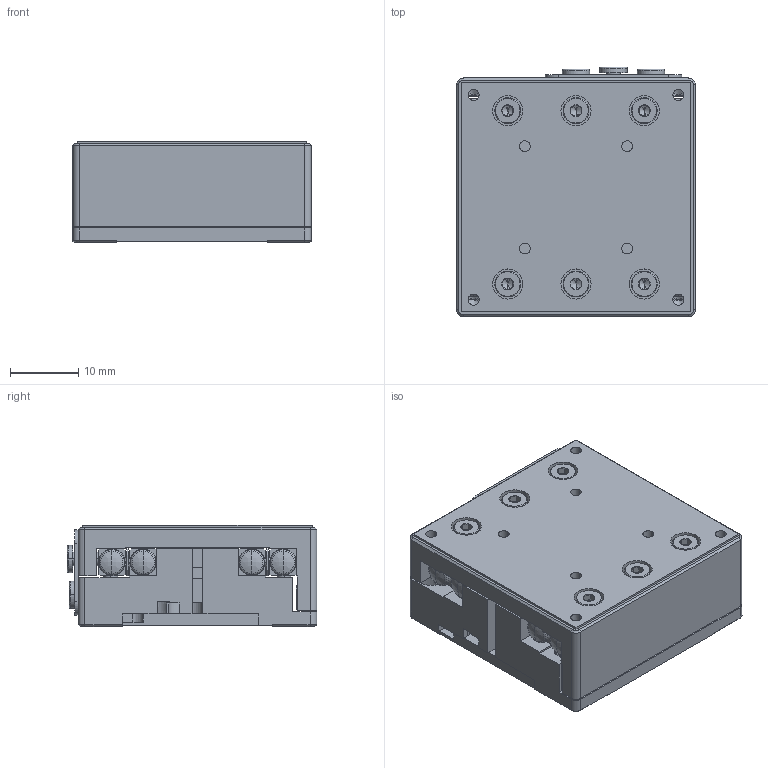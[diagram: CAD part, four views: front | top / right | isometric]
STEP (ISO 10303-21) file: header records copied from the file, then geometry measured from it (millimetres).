
FILE_DESCRIPTION((''),'2;1');
FILE_NAME('LS1-0310_ID4501_ASM','2023-04-26T',('Administrator'),(''),'CREO PARAMETRIC BY PTC INC, 2014500','CREO PARAMETRIC BY PTC INC, 2014500','');
FILE_SCHEMA(('CONFIG_CONTROL_DESIGN'));
Length unit declared in the file: millimetre
Products named in the file (13): JZ_LS1-0310_ID450; _VR1-30_GUIDE; _VR1-30_CAGE; _VR1-30_GUIDE__TOP; VR1_30H_AF0_ASM; VR1_30H_AF1_ASM; HT_LS1-0310_ID450; DG_LS1-0310_ID450; CERAMIC_35; DJP-20; M2_08-5_PTS; M2X6; LS1-0310_ID4501_ASM
Assembly tree (22 placements, depth 3):
  LS1-0310_ID4501_ASM
    JZ_LS1-0310_ID450
    VR1_30H_AF0_ASM
      _VR1-30_GUIDE
      _VR1-30_CAGE
      _VR1-30_GUIDE__TOP
    VR1_30H_AF1_ASM
      _VR1-30_GUIDE
      _VR1-30_CAGE
      _VR1-30_GUIDE__TOP
    HT_LS1-0310_ID450
    DG_LS1-0310_ID450
    CERAMIC_35
    DJP-20
    M2_08-5_PTS  x3
    M2X6  x6
Bounding box: 35 x 36.6 x 14.9 mm (x, y, z)
Volume: 14539.1 mm3; surface area: 15571.9 mm2
Topology: 20 solids, 20 shells, 1229 faces, 3035 edges, 1859 vertices
Faces by surface type: plane 611, cylinder 344, cone 220, torus 38, bspline 16
Entity records: 25066 total; most frequent: CARTESIAN_POINT 4705, DIRECTION 4348, ORIENTED_EDGE 4082, EDGE_CURVE 2041, AXIS2_PLACEMENT_3D 1536, VERTEX_POINT 1306, VECTOR 1276, LINE 1276
